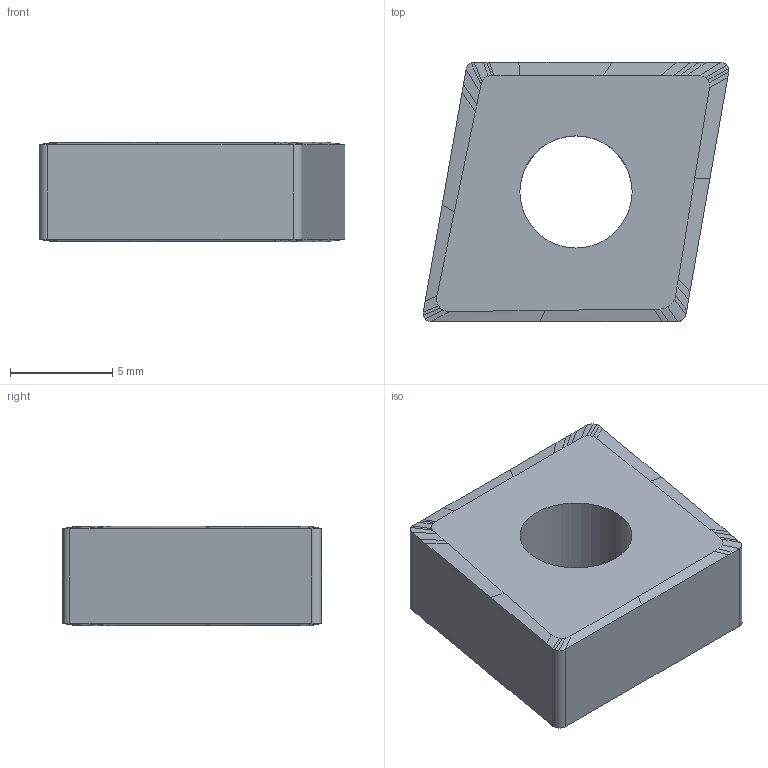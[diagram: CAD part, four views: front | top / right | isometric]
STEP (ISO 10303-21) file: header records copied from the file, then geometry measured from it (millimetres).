
FILE_DESCRIPTION(('CATIA V5 STEP','CAx-IF Rec.Pracs.--- Model Styling and Organization---1.2---2011-12-15'),'2;1');
FILE_NAME('I:\isr\design\admin8\users\adhm_a\8985.stp','2013-12-29T08:02:21+00:00',('none'),('none'),'CATIA Version 5 Release 21 SP 5 (IN-10)','CATIA V5 STEP AP214','none');
FILE_SCHEMA(('AUTOMOTIVE_DESIGN { 1 0 10303 214 1 1 1 1 }'));
Length unit declared in the file: millimetre
Products named in the file (1): 60919287_0 Blank Sintered CNMG 120404-SF
Bounding box: 14.98 x 12.7 x 4.87 mm (x, y, z)
Volume: 677.6 mm3; surface area: 601.3 mm2
Topology: 1 solids, 1 shells, 82 faces, 249 edges, 170 vertices
Faces by surface type: bspline 70, cylinder 6, plane 6
Entity records: 3770 total; most frequent: CARTESIAN_POINT 2224, ORIENTED_EDGE 440, B_SPLINE_CURVE_WITH_KNOTS 235, EDGE_CURVE 220, VERTEX_POINT 140, EDGE_LOOP 84, ADVANCED_FACE 82, FACE_OUTER_BOUND 82
